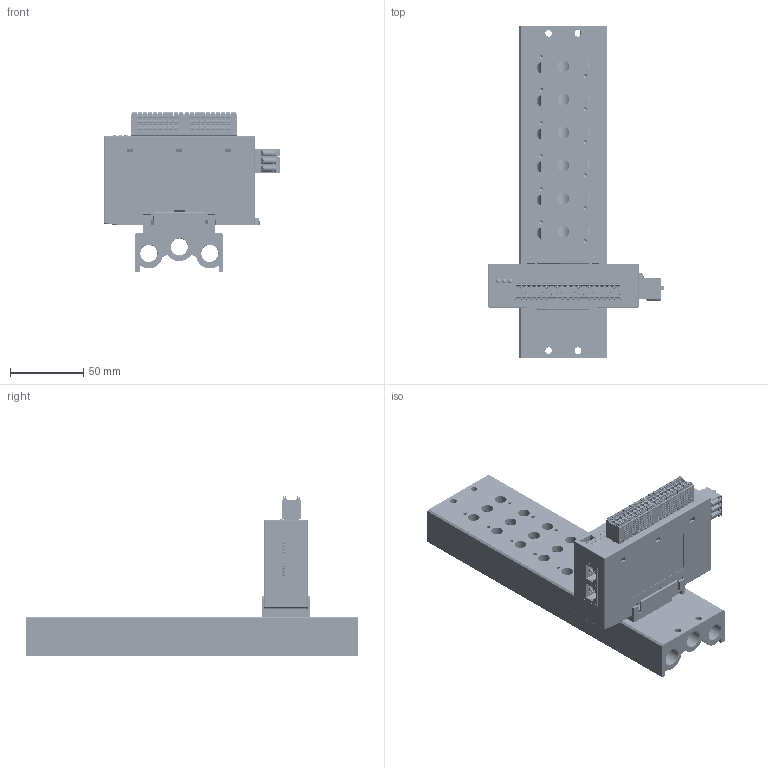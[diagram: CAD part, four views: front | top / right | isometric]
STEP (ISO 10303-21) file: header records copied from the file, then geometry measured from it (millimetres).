
FILE_DESCRIPTION(/* description */ (''),/* implementation_level */ '2;1');
FILE_NAME(/* name */ '',/* time_stamp */ '2025-10-09T16:28:29+08:00',/* author */ (''),/* organization */ (''),/* preprocessor_version */ 'ST-DEVELOPER v14',/* originating_system */ 'SIEMENS PLM Software NX 8.0',/* authorisation */ '');
FILE_SCHEMA (('AP203_CONFIGURATION_CONTROLLED_3D_DESIGN_OF_MECHANICAL_PARTS_AND_ASSEMBLIES_MIM_LF { 1 0 10303 403 2 1 2}'));
Products named in the file (1): DELL3E5857E9ucvy
Bounding box: 119.8 x 226 x 108.48 mm (x, y, z)
Volume: 403573.8 mm3; surface area: 130786.5 mm2
Topology: 2 solids, 227 shells, 9727 faces, 25743 edges, 16750 vertices
Faces by surface type: plane 6388, cylinder 2265, bspline 341, torus 336, cone 213, sphere 95, extrusion 89
Full cylindrical faces by diameter (mm): 0.18 x2, 2.5 x17, 3.05 x40, 3.3 x3, 3.5 x4, 4 x3, 4.5 x4, 6 x4, 8 x18, 11.5 x5, 11.8 x6
Entity records: 320208 total; most frequent: CARTESIAN_POINT 80765, ORIENTED_EDGE 50442, DIRECTION 47933, EDGE_CURVE 25221, VECTOR 18063, LINE 17974, VERTEX_POINT 16617, AXIS2_PLACEMENT_3D 14935
